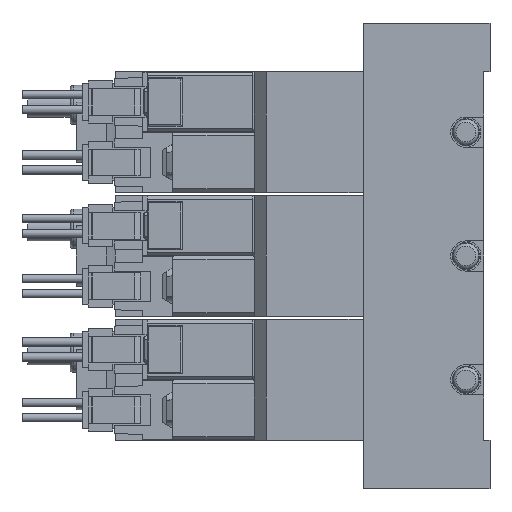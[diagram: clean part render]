
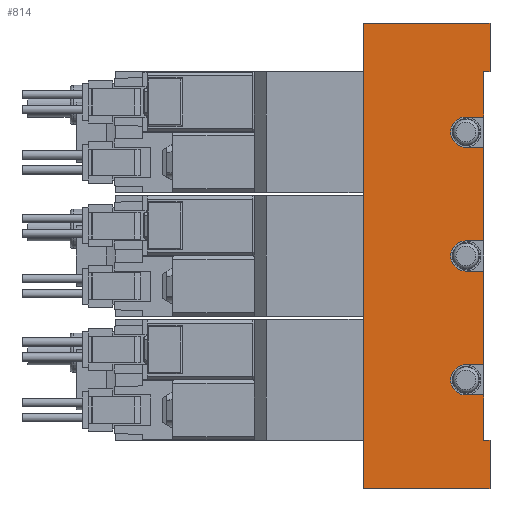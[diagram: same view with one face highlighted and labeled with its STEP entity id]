
A CAD part, left-side view. The second image highlights one B-rep face of the part: STEP entity #814.
In plain terms, the highlighted planar face has unit normal (-1, 0, 0) as drawn and (1, 0, 0) by its records, which use the part's own axes.
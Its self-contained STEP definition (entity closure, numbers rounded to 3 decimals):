
#814=ADVANCED_FACE('',(#1765),#1766,.F.);
#1765=FACE_OUTER_BOUND('',#2742,.T.);
#1766=PLANE('',#2743);
#2742=EDGE_LOOP('',(#6067,#6068,#6069,#6070,#6071,#6072,#6073,#6074,#6075,#6076,#6077,#6078,#6079,#6080,#6081,#6082,#6083,#6084,#6085,#6086));
#2743=AXIS2_PLACEMENT_3D('',#6087,#6088,#6089);
#6067=ORIENTED_EDGE('',*,*,#7193,.T.);
#6068=ORIENTED_EDGE('',*,*,#7242,.T.);
#6069=ORIENTED_EDGE('',*,*,#7228,.F.);
#6070=ORIENTED_EDGE('',*,*,#7232,.F.);
#6071=ORIENTED_EDGE('',*,*,#7243,.T.);
#6072=ORIENTED_EDGE('',*,*,#7244,.T.);
#6073=ORIENTED_EDGE('',*,*,#7245,.T.);
#6074=ORIENTED_EDGE('',*,*,#7246,.F.);
#6075=ORIENTED_EDGE('',*,*,#7191,.F.);
#6076=ORIENTED_EDGE('',*,*,#7151,.F.);
#6077=ORIENTED_EDGE('',*,*,#7247,.T.);
#6078=ORIENTED_EDGE('',*,*,#7187,.F.);
#6079=ORIENTED_EDGE('',*,*,#7248,.F.);
#6080=ORIENTED_EDGE('',*,*,#7184,.F.);
#6081=ORIENTED_EDGE('',*,*,#7249,.T.);
#6082=ORIENTED_EDGE('',*,*,#7161,.F.);
#6083=ORIENTED_EDGE('',*,*,#7241,.F.);
#6084=ORIENTED_EDGE('',*,*,#7131,.F.);
#6085=ORIENTED_EDGE('',*,*,#7250,.T.);
#6086=ORIENTED_EDGE('',*,*,#7224,.T.);
#6087=CARTESIAN_POINT('',(17.5,1.0,38.5));
#6088=DIRECTION('',(-1.0,0.0,0.0));
#6089=DIRECTION('',(0.0,0.0,1.0));
#7131=EDGE_CURVE('',#8827,#8828,#8829,.T.);
#7151=EDGE_CURVE('',#8866,#8867,#8868,.T.);
#7161=EDGE_CURVE('',#8885,#8886,#8887,.T.);
#7184=EDGE_CURVE('',#8930,#8931,#8932,.T.);
#7187=EDGE_CURVE('',#8935,#8936,#8937,.T.);
#7191=EDGE_CURVE('',#8867,#8942,#8943,.T.);
#7193=EDGE_CURVE('',#8945,#8946,#8947,.T.);
#7224=EDGE_CURVE('',#8995,#8945,#8997,.T.);
#7228=EDGE_CURVE('',#9002,#9000,#9004,.T.);
#7232=EDGE_CURVE('',#9008,#9002,#9010,.T.);
#7241=EDGE_CURVE('',#8828,#8885,#9024,.T.);
#7242=EDGE_CURVE('',#8946,#9000,#9025,.T.);
#7243=EDGE_CURVE('',#9008,#9026,#9027,.T.);
#7244=EDGE_CURVE('',#9026,#9028,#9029,.T.);
#7245=EDGE_CURVE('',#9028,#9030,#9031,.T.);
#7246=EDGE_CURVE('',#8942,#9030,#9032,.T.);
#7247=EDGE_CURVE('',#8866,#8936,#9033,.T.);
#7248=EDGE_CURVE('',#8931,#8935,#9034,.T.);
#7249=EDGE_CURVE('',#8930,#8886,#9035,.T.);
#7250=EDGE_CURVE('',#8827,#8995,#9036,.T.);
#8827=VERTEX_POINT('',#11568);
#8828=VERTEX_POINT('',#11569);
#8829=LINE('',#11570,#11571);
#8866=VERTEX_POINT('',#11704);
#8867=VERTEX_POINT('',#11705);
#8868=LINE('',#11706,#11707);
#8885=VERTEX_POINT('',#11731);
#8886=VERTEX_POINT('',#11732);
#8887=LINE('',#11733,#11734);
#8930=VERTEX_POINT('',#11785);
#8931=VERTEX_POINT('',#11786);
#8932=LINE('',#11787,#11788);
#8935=VERTEX_POINT('',#11793);
#8936=VERTEX_POINT('',#11794);
#8937=LINE('',#11795,#11796);
#8942=VERTEX_POINT('',#11803);
#8943=CIRCLE('',#11804,2.5);
#8945=VERTEX_POINT('',#11807);
#8946=VERTEX_POINT('',#11808);
#8947=LINE('',#11809,#11810);
#8995=VERTEX_POINT('',#11871);
#8997=LINE('',#11874,#11875);
#9000=VERTEX_POINT('',#11878);
#9002=VERTEX_POINT('',#11881);
#9004=LINE('',#11884,#11885);
#9008=VERTEX_POINT('',#11890);
#9010=LINE('',#11893,#11894);
#9024=CIRCLE('',#11910,2.5);
#9025=LINE('',#11911,#11912);
#9026=VERTEX_POINT('',#11913);
#9027=LINE('',#11914,#11915);
#9028=VERTEX_POINT('',#11916);
#9029=LINE('',#11917,#11918);
#9030=VERTEX_POINT('',#11919);
#9031=LINE('',#11920,#11921);
#9032=LINE('',#11922,#11923);
#9033=LINE('',#11924,#11925);
#9034=CIRCLE('',#11926,2.5);
#9035=LINE('',#11927,#11928);
#9036=LINE('',#11929,#11930);
#11568=CARTESIAN_POINT('',(17.5,1.0,-23.0));
#11569=CARTESIAN_POINT('',(17.5,4.0,-23.0));
#11570=CARTESIAN_POINT('',(17.5,1.0,-23.0));
#11571=VECTOR('',#13106,1.0);
#11704=CARTESIAN_POINT('',(17.5,1.0,18.0));
#11705=CARTESIAN_POINT('',(17.5,4.0,18.0));
#11706=CARTESIAN_POINT('',(17.5,1.0,18.0));
#11707=VECTOR('',#13142,1.0);
#11731=CARTESIAN_POINT('',(17.5,4.0,-18.0));
#11732=CARTESIAN_POINT('',(17.5,1.0,-18.0));
#11733=CARTESIAN_POINT('',(17.5,1.0,-18.0));
#11734=VECTOR('',#13156,1.0);
#11785=CARTESIAN_POINT('',(17.5,1.0,-2.5));
#11786=CARTESIAN_POINT('',(17.5,4.0,-2.5));
#11787=CARTESIAN_POINT('',(17.5,1.0,-2.5));
#11788=VECTOR('',#13207,1.0);
#11793=CARTESIAN_POINT('',(17.5,4.0,2.5));
#11794=CARTESIAN_POINT('',(17.5,1.0,2.5));
#11795=CARTESIAN_POINT('',(17.5,1.0,2.5));
#11796=VECTOR('',#13210,1.0);
#11803=CARTESIAN_POINT('',(17.5,4.0,23.0));
#11804=AXIS2_PLACEMENT_3D('',#13216,#13217,#13218);
#11807=CARTESIAN_POINT('',(17.5,0.0,-30.5));
#11808=CARTESIAN_POINT('',(17.5,0.0,-38.5));
#11809=CARTESIAN_POINT('',(17.5,0.0,-30.5));
#11810=VECTOR('',#13220,1.0);
#11871=CARTESIAN_POINT('',(17.5,1.0,-30.5));
#11874=CARTESIAN_POINT('',(17.5,4.0,-30.5));
#11875=VECTOR('',#13277,1.0);
#11878=CARTESIAN_POINT('',(17.5,21.0,-38.5));
#11881=CARTESIAN_POINT('',(17.5,21.0,38.5));
#11884=CARTESIAN_POINT('',(17.5,21.0,38.5));
#11885=VECTOR('',#13283,1.0);
#11890=CARTESIAN_POINT('',(17.5,0.0,38.5));
#11893=CARTESIAN_POINT('',(17.5,1.0,38.5));
#11894=VECTOR('',#13289,1.0);
#11910=AXIS2_PLACEMENT_3D('',#13310,#13311,#13312);
#11911=CARTESIAN_POINT('',(17.5,1.0,-38.5));
#11912=VECTOR('',#13313,1.0);
#11913=CARTESIAN_POINT('',(17.5,0.0,30.5));
#11914=CARTESIAN_POINT('',(17.5,0.0,38.5));
#11915=VECTOR('',#13314,1.0);
#11916=CARTESIAN_POINT('',(17.5,1.0,30.5));
#11917=CARTESIAN_POINT('',(17.5,0.0,30.5));
#11918=VECTOR('',#13315,1.0);
#11919=CARTESIAN_POINT('',(17.5,1.0,23.0));
#11920=CARTESIAN_POINT('',(17.5,1.0,38.5));
#11921=VECTOR('',#13316,1.0);
#11922=CARTESIAN_POINT('',(17.5,1.0,23.0));
#11923=VECTOR('',#13317,1.0);
#11924=CARTESIAN_POINT('',(17.5,1.0,38.5));
#11925=VECTOR('',#13318,1.0);
#11926=AXIS2_PLACEMENT_3D('',#13319,#13320,#13321);
#11927=CARTESIAN_POINT('',(17.5,1.0,38.5));
#11928=VECTOR('',#13322,1.0);
#11929=CARTESIAN_POINT('',(17.5,1.0,38.5));
#11930=VECTOR('',#13323,1.0);
#13106=DIRECTION('',(0.0,1.0,0.0));
#13142=DIRECTION('',(0.0,1.0,0.0));
#13156=DIRECTION('',(0.0,-1.0,0.0));
#13207=DIRECTION('',(0.0,1.0,0.0));
#13210=DIRECTION('',(0.0,-1.0,0.0));
#13216=CARTESIAN_POINT('',(17.5,4.0,20.5));
#13217=DIRECTION('',(1.0,0.0,-0.0));
#13218=DIRECTION('',(0.0,0.0,1.0));
#13220=DIRECTION('',(0.0,0.0,-1.0));
#13277=DIRECTION('',(0.0,-1.0,0.0));
#13283=DIRECTION('',(0.0,0.0,-1.0));
#13289=DIRECTION('',(0.0,1.0,0.0));
#13310=CARTESIAN_POINT('',(17.5,4.0,-20.5));
#13311=DIRECTION('',(1.0,0.0,-0.0));
#13312=DIRECTION('',(0.0,0.0,1.0));
#13313=DIRECTION('',(0.0,1.0,0.0));
#13314=DIRECTION('',(0.0,0.0,-1.0));
#13315=DIRECTION('',(0.0,1.0,0.0));
#13316=DIRECTION('',(0.0,0.0,-1.0));
#13317=DIRECTION('',(0.0,-1.0,0.0));
#13318=DIRECTION('',(0.0,0.0,-1.0));
#13319=CARTESIAN_POINT('',(17.5,4.0,0.0));
#13320=DIRECTION('',(1.0,0.0,-0.0));
#13321=DIRECTION('',(0.0,0.0,1.0));
#13322=DIRECTION('',(0.0,0.0,-1.0));
#13323=DIRECTION('',(0.0,0.0,-1.0));
